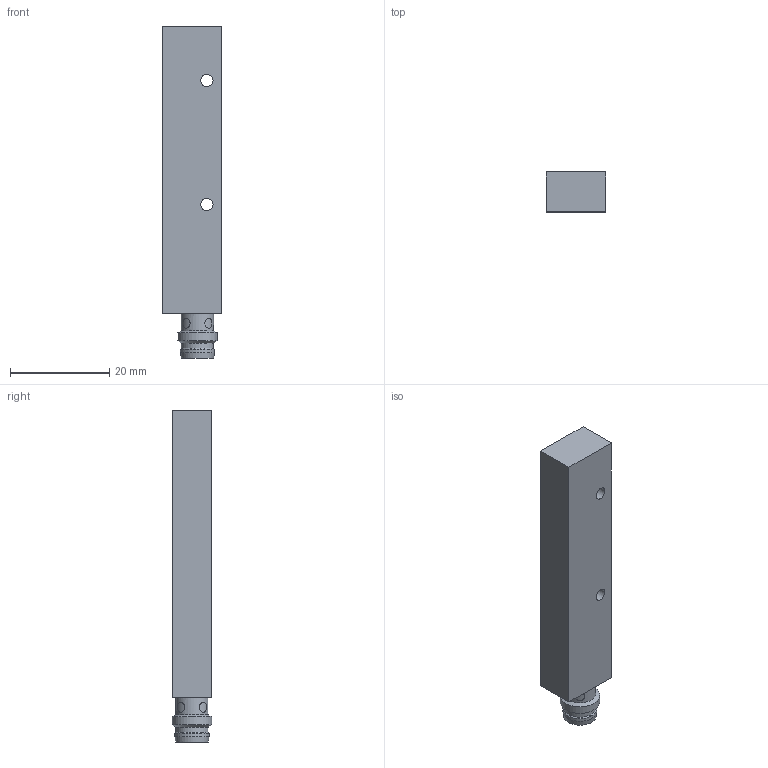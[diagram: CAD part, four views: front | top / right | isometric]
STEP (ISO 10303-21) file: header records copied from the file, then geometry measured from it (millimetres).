
FILE_DESCRIPTION( ( 'Unknown' ), '1' );
FILE_NAME( 'Z:/bereich/BECH/Services/me_CAD/Solid Edge/Models/Dokumentationen/Opto/FxDM08/Vereinfachte Modelle/Neutralformate/FxDM08_S35L.stp', 'Unknown', ( 'Unknown' ), ( 'Unknown' ), 'XStep 1.0', 'Unknown', ' ' );
FILE_SCHEMA( ( 'CONFIG_CONTROL_DESIGN' ) );
Length unit declared in the file: millimetre
Products named in the file (1): 1
Bounding box: 12 x 8 x 67 mm (x, y, z)
Volume: 5702.8 mm3; surface area: 2974.2 mm2
Topology: 1 solids, 1 shells, 35 faces, 76 edges, 46 vertices
Faces by surface type: cylinder 19, plane 9, cone 4, sphere 3
Full cylindrical faces by diameter (mm): 1 x3, 2 x4, 2.5 x2, 5.77 x1, 6.5 x2, 6.8 x1, 6.9 x1, 8 x1
Entity records: 1048 total; most frequent: CARTESIAN_POINT 382, DIRECTION 130, ORIENTED_EDGE 86, EDGE_LOOP 68, AXIS2_PLACEMENT_3D 59, FACE_OUTER_BOUND 50, EDGE_CURVE 43, VERTEX_POINT 39
